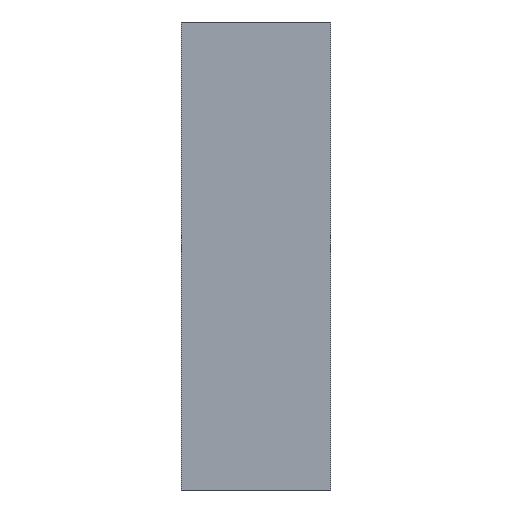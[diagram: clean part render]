
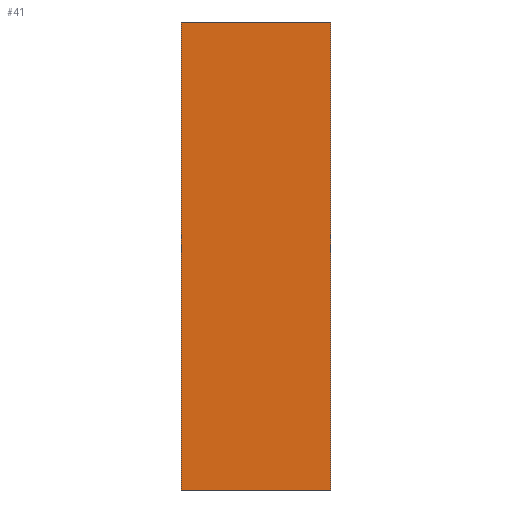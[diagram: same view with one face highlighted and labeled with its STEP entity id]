
A CAD part, front view. The second image highlights one B-rep face of the part: STEP entity #41.
In plain terms, the highlighted planar face has unit normal (0, -1, 0).
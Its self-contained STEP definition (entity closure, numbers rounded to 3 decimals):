
#1 = LINE ( 'NONE', #161, #115 ) ;
#17 = EDGE_CURVE ( 'NONE', #149, #198, #1, .T. ) ;
#21 = DIRECTION ( 'NONE',  ( 0., 0., -1. ) ) ;
#23 = CARTESIAN_POINT ( 'NONE',  ( 24., 0., 0. ) ) ;
#29 = CARTESIAN_POINT ( 'NONE',  ( 24., 0., 75. ) ) ;
#32 = ORIENTED_EDGE ( 'NONE', *, *, #17, .T. ) ;
#37 = DIRECTION ( 'NONE',  ( 0., 1., 0. ) ) ;
#38 = EDGE_CURVE ( 'NONE', #198, #159, #135, .T. ) ;
#40 = CARTESIAN_POINT ( 'NONE',  ( 0., 0., 75. ) ) ;
#41 = ADVANCED_FACE ( 'NONE', ( #148 ), #189, .F. ) ;
#43 = CARTESIAN_POINT ( 'NONE',  ( 0., 0., 0. ) ) ;
#53 = DIRECTION ( 'NONE',  ( 0., 0., 1. ) ) ;
#70 = VECTOR ( 'NONE', #192, 1000. ) ;
#74 = EDGE_CURVE ( 'NONE', #170, #159, #140, .T. ) ;
#79 = DIRECTION ( 'NONE',  ( 0., 0., -1. ) ) ;
#83 = VECTOR ( 'NONE', #85, 1000. ) ;
#85 = DIRECTION ( 'NONE',  ( 1., 0., 0. ) ) ;
#90 = LINE ( 'NONE', #92, #70 ) ;
#92 = CARTESIAN_POINT ( 'NONE',  ( 0., 0., 75. ) ) ;
#109 = EDGE_CURVE ( 'NONE', #149, #170, #90, .T. ) ;
#115 = VECTOR ( 'NONE', #21, 1000. ) ;
#116 = CARTESIAN_POINT ( 'NONE',  ( 0., 0., 0. ) ) ;
#129 = EDGE_LOOP ( 'NONE', ( #185, #200, #201, #32 ) ) ;
#132 = CARTESIAN_POINT ( 'NONE',  ( 0., 0., 75. ) ) ;
#133 = VECTOR ( 'NONE', #79, 1000. ) ;
#135 = LINE ( 'NONE', #116, #83 ) ;
#137 = CARTESIAN_POINT ( 'NONE',  ( 24., 0., 75. ) ) ;
#140 = LINE ( 'NONE', #29, #133 ) ;
#144 = AXIS2_PLACEMENT_3D ( 'NONE', #132, #37, #53 ) ;
#148 = FACE_OUTER_BOUND ( 'NONE', #129, .T. ) ;
#149 = VERTEX_POINT ( 'NONE', #40 ) ;
#159 = VERTEX_POINT ( 'NONE', #23 ) ;
#161 = CARTESIAN_POINT ( 'NONE',  ( 0., 0., 75. ) ) ;
#170 = VERTEX_POINT ( 'NONE', #137 ) ;
#185 = ORIENTED_EDGE ( 'NONE', *, *, #38, .T. ) ;
#189 = PLANE ( 'NONE',  #144 ) ;
#192 = DIRECTION ( 'NONE',  ( 1., 0., 0. ) ) ;
#198 = VERTEX_POINT ( 'NONE', #43 ) ;
#200 = ORIENTED_EDGE ( 'NONE', *, *, #74, .F. ) ;
#201 = ORIENTED_EDGE ( 'NONE', *, *, #109, .F. ) ;
